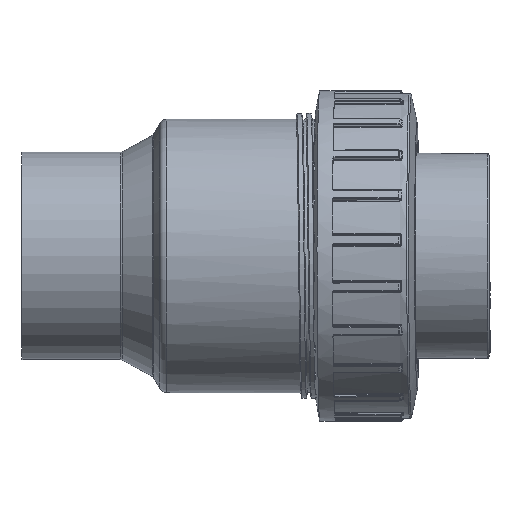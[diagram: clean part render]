
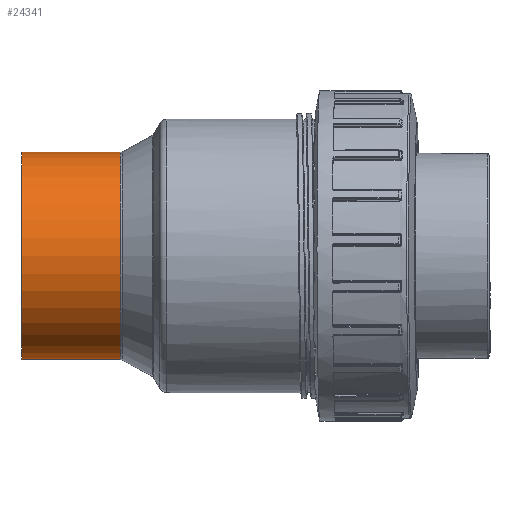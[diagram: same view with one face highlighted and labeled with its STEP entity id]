
A CAD part, front view. The second image highlights one B-rep face of the part: STEP entity #24341.
In plain terms, the highlighted cylindrical face has radius 53.3 mm (diameter 106.6 mm), a full revolution.
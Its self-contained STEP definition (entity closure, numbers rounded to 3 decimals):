
#5596=CYLINDRICAL_SURFACE('',#26049,53.3);
#5947=FACE_BOUND('',#7628,.T.);
#6104=FACE_OUTER_BOUND('',#7627,.T.);
#7627=EDGE_LOOP('',(#16631));
#7628=EDGE_LOOP('',(#16632));
#9299=CIRCLE('',#26048,53.3);
#9300=CIRCLE('',#26050,53.3);
#10404=VERTEX_POINT('',#35181);
#10405=VERTEX_POINT('',#35184);
#12836=EDGE_CURVE('',#10404,#10404,#9299,.T.);
#12837=EDGE_CURVE('',#10405,#10405,#9300,.T.);
#16631=ORIENTED_EDGE('',*,*,#12837,.T.);
#16632=ORIENTED_EDGE('',*,*,#12836,.F.);
#24341=ADVANCED_FACE('',(#6104,#5947),#5596,.T.);
#26048=AXIS2_PLACEMENT_3D('',#35182,#28520,#28521);
#26049=AXIS2_PLACEMENT_3D('',#35183,#28522,#28523);
#26050=AXIS2_PLACEMENT_3D('',#35185,#28524,#28525);
#28520=DIRECTION('center_axis',(1.,0.,0.));
#28521=DIRECTION('ref_axis',(0.,-1.,0.));
#28522=DIRECTION('center_axis',(1.,0.,0.));
#28523=DIRECTION('ref_axis',(0.,1.,0.));
#28524=DIRECTION('center_axis',(1.,0.,0.));
#28525=DIRECTION('ref_axis',(0.,0.,-1.));
#35181=CARTESIAN_POINT('',(-87.276,53.3,0.));
#35182=CARTESIAN_POINT('Origin',(-87.276,0.,0.));
#35183=CARTESIAN_POINT('Origin',(-112.27,0.,0.));
#35184=CARTESIAN_POINT('',(-137.77,53.3,0.));
#35185=CARTESIAN_POINT('Origin',(-137.77,0.,0.));
